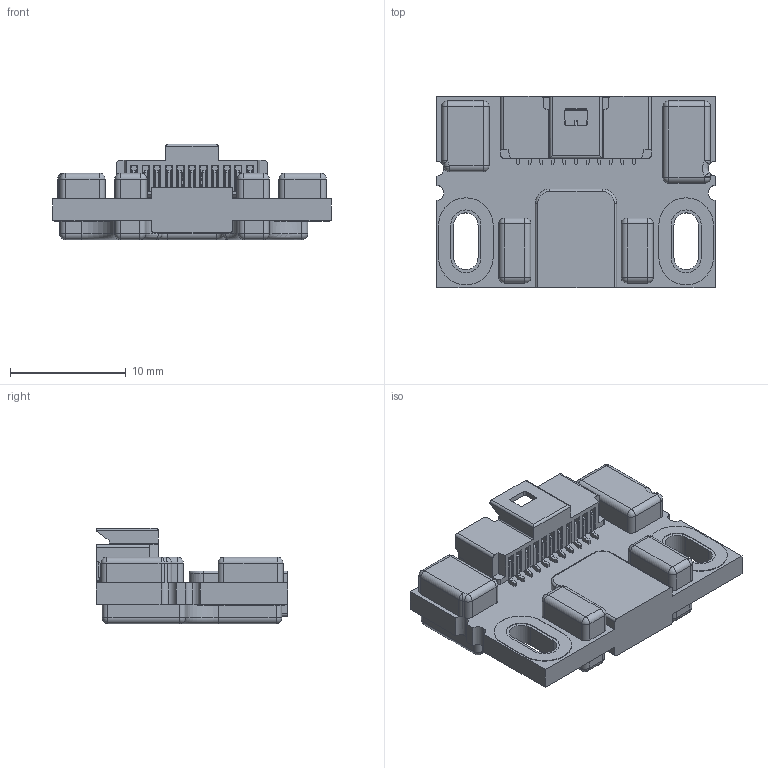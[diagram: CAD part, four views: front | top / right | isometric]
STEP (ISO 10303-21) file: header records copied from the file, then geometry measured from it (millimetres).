
FILE_DESCRIPTION (( 'STEP AP214' ), '1' );
FILE_NAME ('RLC2IA_V00_00_web.STEP', '2025-09-30T06:52:17', ( '' ), ( '' ), 'SwSTEP 2.0', 'SolidWorks 2024', '' );
FILE_SCHEMA (( 'AUTOMOTIVE_DESIGN' ));
Length unit declared in the file: millimetre
Products named in the file (1): RLC2IA_V00_00_web
Bounding box: 24 x 16.5 x 8.24 mm (x, y, z)
Volume: 1437.4 mm3; surface area: 1839.4 mm2
Topology: 1 solids, 1 shells, 1573 faces, 4181 edges, 2632 vertices
Faces by surface type: plane 1068, bspline 195, cylinder 177, cone 92, sphere 29, torus 12
Entity records: 57172 total; most frequent: CARTESIAN_POINT 19245, ORIENTED_EDGE 8308, DIRECTION 6977, EDGE_CURVE 4154, VECTOR 3297, LINE 3297, VERTEX_POINT 2632, AXIS2_PLACEMENT_3D 1840
